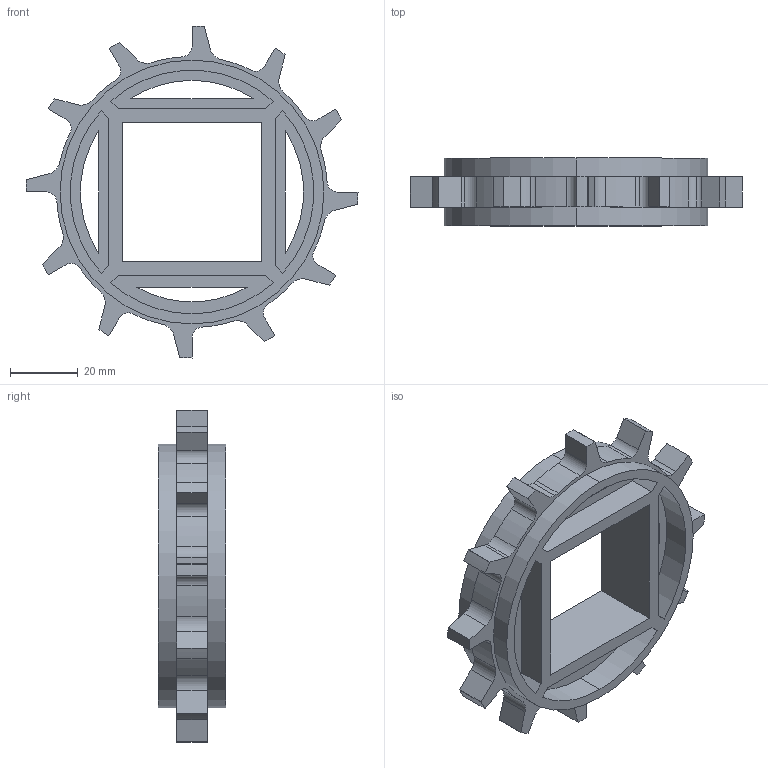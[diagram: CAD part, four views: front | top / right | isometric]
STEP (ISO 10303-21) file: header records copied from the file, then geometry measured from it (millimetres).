
FILE_DESCRIPTION (( 'STEP AP214' ), '1' );
FILE_NAME ('25.4 Z.12 DONUSLU BANT DÝÞLÝSÝ.STEP', '2025-01-21T05:16:17', ( '' ), ( '' ), 'SwSTEP 2.0', 'SolidWorks 2021', '' );
FILE_SCHEMA (( 'AUTOMOTIVE_DESIGN' ));
Length unit declared in the file: millimetre
Products named in the file (1): 25.4 Z.12 DONUSLU BANT DÝÞLÝSÝ
Bounding box: 98.15 x 20 x 98.15 mm (x, y, z)
Volume: 41238.4 mm3; surface area: 24348.5 mm2
Topology: 1 solids, 1 shells, 153 faces, 423 edges, 282 vertices
Faces by surface type: cylinder 85, plane 68
Entity records: 5001 total; most frequent: DIRECTION 901, CARTESIAN_POINT 859, ORIENTED_EDGE 846, EDGE_CURVE 423, AXIS2_PLACEMENT_3D 324, VERTEX_POINT 282, LINE 253, VECTOR 253
